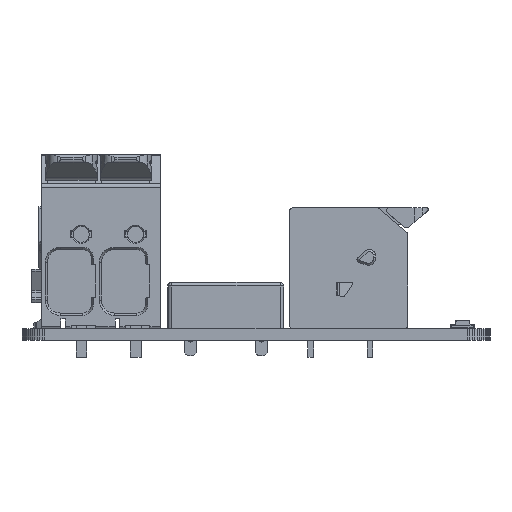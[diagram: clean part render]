
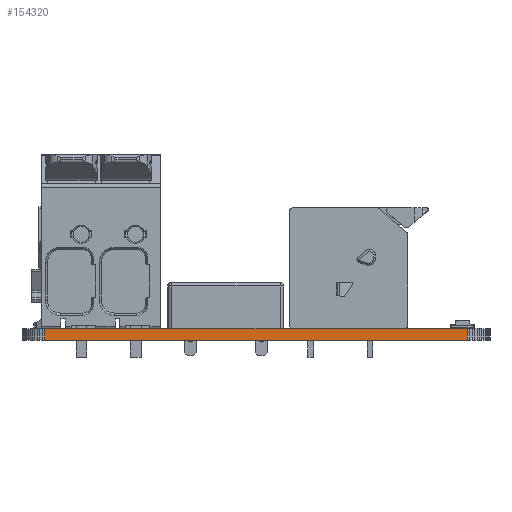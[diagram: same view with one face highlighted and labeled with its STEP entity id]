
A CAD part, front view. The second image highlights one B-rep face of the part: STEP entity #154320.
In plain terms, the highlighted planar face has unit normal (0, -1, 0).
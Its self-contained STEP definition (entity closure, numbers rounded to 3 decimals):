
#146335 = PLANE('',#146336);
#146336 = AXIS2_PLACEMENT_3D('',#146337,#146338,#146339);
#146337 = CARTESIAN_POINT('',(174.625,-98.105,1.6));
#146338 = DIRECTION('',(-0.,-0.,-1.));
#146339 = DIRECTION('',(-1.,0.,0.));
#146389 = PLANE('',#146390);
#146390 = AXIS2_PLACEMENT_3D('',#146391,#146392,#146393);
#146391 = CARTESIAN_POINT('',(174.625,-98.105,0.));
#146392 = DIRECTION('',(-0.,-0.,-1.));
#146393 = DIRECTION('',(-1.,0.,0.));
#147310 = VERTEX_POINT('',#147311);
#147311 = CARTESIAN_POINT('',(203.84,-134.995,0.));
#147325 = PLANE('',#147326);
#147326 = AXIS2_PLACEMENT_3D('',#147327,#147328,#147329);
#147327 = CARTESIAN_POINT('',(204.195,-134.975,0.));
#147328 = DIRECTION('',(0.056,-0.998,0.));
#147329 = DIRECTION('',(-0.998,-0.056,0.));
#147337 = EDGE_CURVE('',#147310,#147338,#147340,.T.);
#147338 = VERTEX_POINT('',#147339);
#147339 = CARTESIAN_POINT('',(145.41,-134.995,0.));
#147340 = SURFACE_CURVE('',#147341,(#147345,#147352),.PCURVE_S1.);
#147341 = LINE('',#147342,#147343);
#147342 = CARTESIAN_POINT('',(203.84,-134.995,0.));
#147343 = VECTOR('',#147344,1.);
#147344 = DIRECTION('',(-1.,0.,0.));
#147345 = PCURVE('',#146389,#147346);
#147346 = DEFINITIONAL_REPRESENTATION('',(#147347),#147351);
#147347 = LINE('',#147348,#147349);
#147348 = CARTESIAN_POINT('',(-29.215,-36.89));
#147349 = VECTOR('',#147350,1.);
#147350 = DIRECTION('',(1.,0.));
#147351 = ( GEOMETRIC_REPRESENTATION_CONTEXT(2) 
PARAMETRIC_REPRESENTATION_CONTEXT() REPRESENTATION_CONTEXT('2D SPACE',''
  ) );
#147352 = PCURVE('',#147353,#147358);
#147353 = PLANE('',#147354);
#147354 = AXIS2_PLACEMENT_3D('',#147355,#147356,#147357);
#147355 = CARTESIAN_POINT('',(203.84,-134.995,0.));
#147356 = DIRECTION('',(0.,-1.,0.));
#147357 = DIRECTION('',(-1.,0.,0.));
#147358 = DEFINITIONAL_REPRESENTATION('',(#147359),#147363);
#147359 = LINE('',#147360,#147361);
#147360 = CARTESIAN_POINT('',(0.,-0.));
#147361 = VECTOR('',#147362,1.);
#147362 = DIRECTION('',(1.,0.));
#147363 = ( GEOMETRIC_REPRESENTATION_CONTEXT(2) 
PARAMETRIC_REPRESENTATION_CONTEXT() REPRESENTATION_CONTEXT('2D SPACE',''
  ) );
#147381 = PLANE('',#147382);
#147382 = AXIS2_PLACEMENT_3D('',#147383,#147384,#147385);
#147383 = CARTESIAN_POINT('',(145.41,-134.995,0.));
#147384 = DIRECTION('',(-0.056,-0.998,0.));
#147385 = DIRECTION('',(-0.998,0.056,0.));
#150562 = VERTEX_POINT('',#150563);
#150563 = CARTESIAN_POINT('',(203.84,-134.995,1.6));
#150584 = EDGE_CURVE('',#150562,#150585,#150587,.T.);
#150585 = VERTEX_POINT('',#150586);
#150586 = CARTESIAN_POINT('',(145.41,-134.995,1.6));
#150587 = SURFACE_CURVE('',#150588,(#150592,#150599),.PCURVE_S1.);
#150588 = LINE('',#150589,#150590);
#150589 = CARTESIAN_POINT('',(203.84,-134.995,1.6));
#150590 = VECTOR('',#150591,1.);
#150591 = DIRECTION('',(-1.,0.,0.));
#150592 = PCURVE('',#146335,#150593);
#150593 = DEFINITIONAL_REPRESENTATION('',(#150594),#150598);
#150594 = LINE('',#150595,#150596);
#150595 = CARTESIAN_POINT('',(-29.215,-36.89));
#150596 = VECTOR('',#150597,1.);
#150597 = DIRECTION('',(1.,0.));
#150598 = ( GEOMETRIC_REPRESENTATION_CONTEXT(2) 
PARAMETRIC_REPRESENTATION_CONTEXT() REPRESENTATION_CONTEXT('2D SPACE',''
  ) );
#150599 = PCURVE('',#147353,#150600);
#150600 = DEFINITIONAL_REPRESENTATION('',(#150601),#150605);
#150601 = LINE('',#150602,#150603);
#150602 = CARTESIAN_POINT('',(0.,-1.6));
#150603 = VECTOR('',#150604,1.);
#150604 = DIRECTION('',(1.,0.));
#150605 = ( GEOMETRIC_REPRESENTATION_CONTEXT(2) 
PARAMETRIC_REPRESENTATION_CONTEXT() REPRESENTATION_CONTEXT('2D SPACE',''
  ) );
#154272 = EDGE_CURVE('',#147310,#150562,#154273,.T.);
#154273 = SURFACE_CURVE('',#154274,(#154278,#154285),.PCURVE_S1.);
#154274 = LINE('',#154275,#154276);
#154275 = CARTESIAN_POINT('',(203.84,-134.995,0.));
#154276 = VECTOR('',#154277,1.);
#154277 = DIRECTION('',(0.,0.,1.));
#154278 = PCURVE('',#147325,#154279);
#154279 = DEFINITIONAL_REPRESENTATION('',(#154280),#154284);
#154280 = LINE('',#154281,#154282);
#154281 = CARTESIAN_POINT('',(0.355,0.));
#154282 = VECTOR('',#154283,1.);
#154283 = DIRECTION('',(0.,-1.));
#154284 = ( GEOMETRIC_REPRESENTATION_CONTEXT(2) 
PARAMETRIC_REPRESENTATION_CONTEXT() REPRESENTATION_CONTEXT('2D SPACE',''
  ) );
#154285 = PCURVE('',#147353,#154286);
#154286 = DEFINITIONAL_REPRESENTATION('',(#154287),#154291);
#154287 = LINE('',#154288,#154289);
#154288 = CARTESIAN_POINT('',(0.,-0.));
#154289 = VECTOR('',#154290,1.);
#154290 = DIRECTION('',(0.,-1.));
#154291 = ( GEOMETRIC_REPRESENTATION_CONTEXT(2) 
PARAMETRIC_REPRESENTATION_CONTEXT() REPRESENTATION_CONTEXT('2D SPACE',''
  ) );
#154320 = ADVANCED_FACE('',(#154321),#147353,.T.);
#154321 = FACE_BOUND('',#154322,.T.);
#154322 = EDGE_LOOP('',(#154323,#154324,#154325,#154346));
#154323 = ORIENTED_EDGE('',*,*,#154272,.T.);
#154324 = ORIENTED_EDGE('',*,*,#150584,.T.);
#154325 = ORIENTED_EDGE('',*,*,#154326,.F.);
#154326 = EDGE_CURVE('',#147338,#150585,#154327,.T.);
#154327 = SURFACE_CURVE('',#154328,(#154332,#154339),.PCURVE_S1.);
#154328 = LINE('',#154329,#154330);
#154329 = CARTESIAN_POINT('',(145.41,-134.995,0.));
#154330 = VECTOR('',#154331,1.);
#154331 = DIRECTION('',(0.,0.,1.));
#154332 = PCURVE('',#147353,#154333);
#154333 = DEFINITIONAL_REPRESENTATION('',(#154334),#154338);
#154334 = LINE('',#154335,#154336);
#154335 = CARTESIAN_POINT('',(58.43,0.));
#154336 = VECTOR('',#154337,1.);
#154337 = DIRECTION('',(0.,-1.));
#154338 = ( GEOMETRIC_REPRESENTATION_CONTEXT(2) 
PARAMETRIC_REPRESENTATION_CONTEXT() REPRESENTATION_CONTEXT('2D SPACE',''
  ) );
#154339 = PCURVE('',#147381,#154340);
#154340 = DEFINITIONAL_REPRESENTATION('',(#154341),#154345);
#154341 = LINE('',#154342,#154343);
#154342 = CARTESIAN_POINT('',(0.,0.));
#154343 = VECTOR('',#154344,1.);
#154344 = DIRECTION('',(0.,-1.));
#154345 = ( GEOMETRIC_REPRESENTATION_CONTEXT(2) 
PARAMETRIC_REPRESENTATION_CONTEXT() REPRESENTATION_CONTEXT('2D SPACE',''
  ) );
#154346 = ORIENTED_EDGE('',*,*,#147337,.F.);
